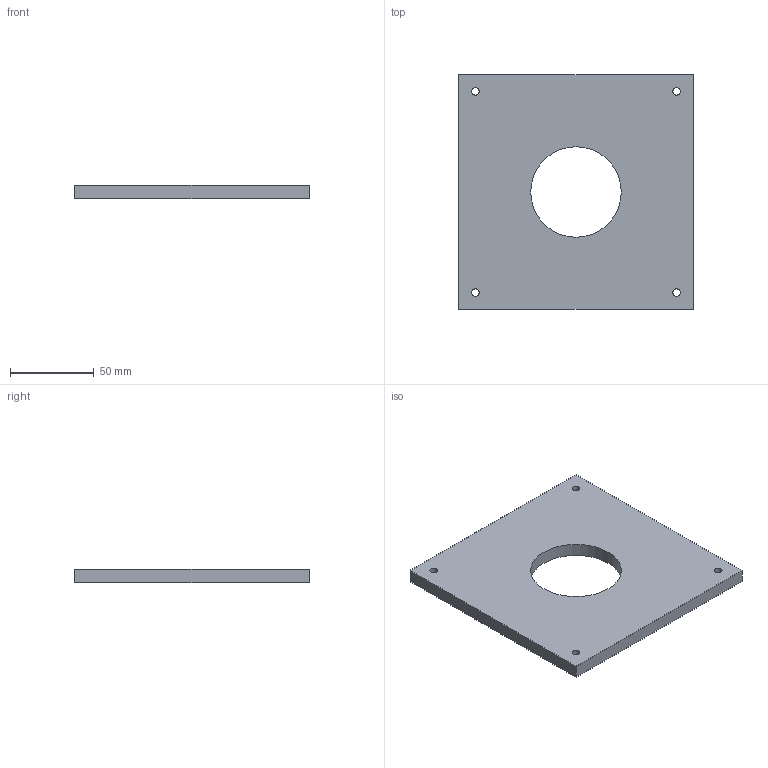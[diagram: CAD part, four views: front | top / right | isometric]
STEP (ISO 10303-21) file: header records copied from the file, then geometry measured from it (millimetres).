
FILE_DESCRIPTION(('Open CASCADE Model'),'2;1');
FILE_NAME('Open CASCADE Shape Model','2026-10-26T17:58:52',('Author'),( 'Open CASCADE'),'Open CASCADE STEP processor 7.9','Open CASCADE 7.9' ,'Unknown');
FILE_SCHEMA(('AUTOMOTIVE_DESIGN { 1 0 10303 214 1 1 1 1 }'));
Length unit declared in the file: millimetre
Products named in the file (1): Open CASCADE STEP translator 7.9 4
Bounding box: 140 x 140 x 8 mm (x, y, z)
Volume: 137986.3 mm3; surface area: 40785.5 mm2
Topology: 1 solids, 1 shells, 11 faces, 27 edges, 18 vertices
Faces by surface type: plane 6, cylinder 5
Full cylindrical faces by diameter (mm): 4.5 x4, 53.975 x1
Entity records: 712 total; most frequent: DIRECTION 115, CARTESIAN_POINT 111, LINE 61, VECTOR 61, ORIENTED_EDGE 54, PCURVE 54, DEFINITIONAL_REPRESENTATION 54, EDGE_CURVE 27
